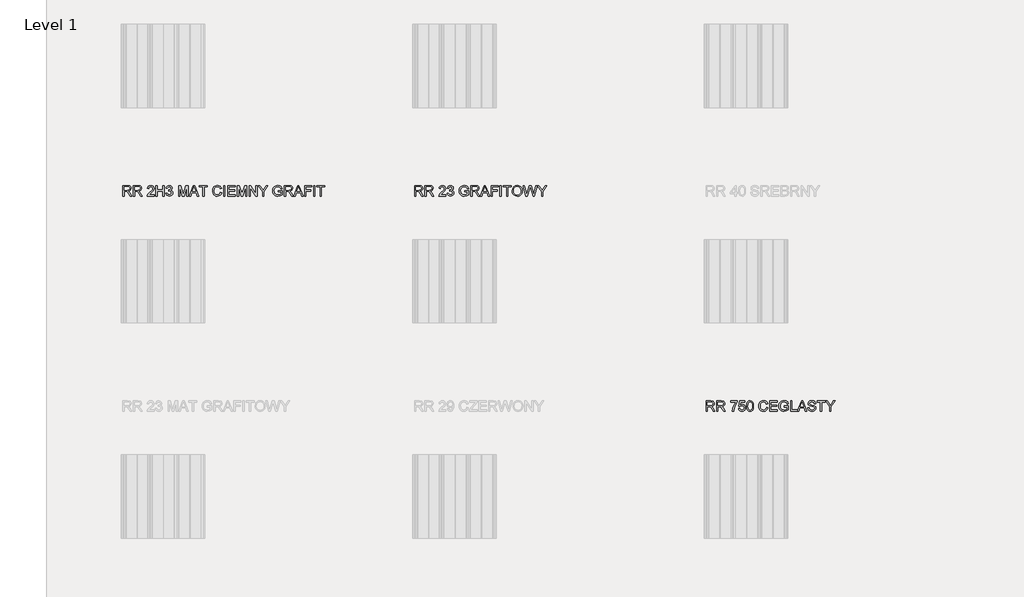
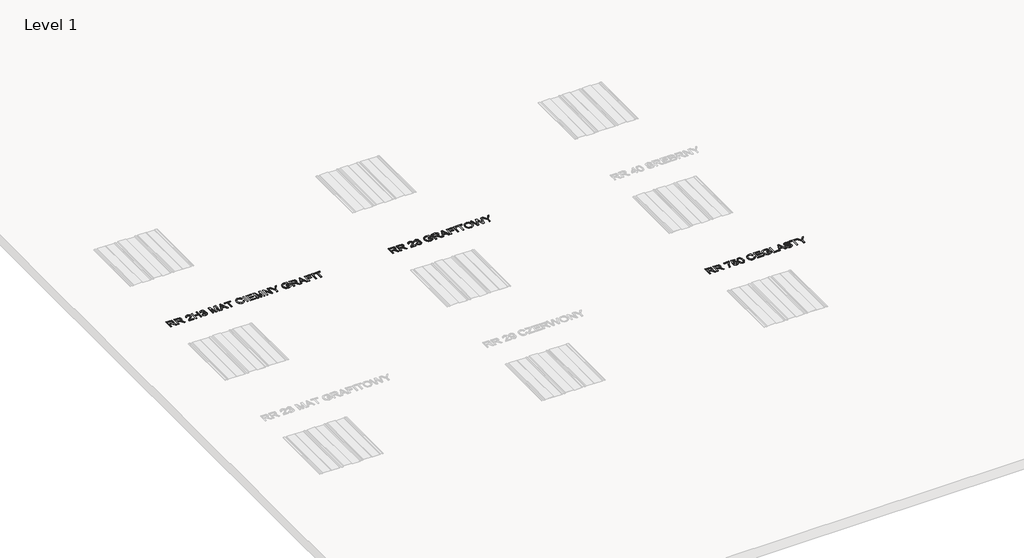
# One storey, part 6 of 9: 3 proxies.
"""IFC4 building model written with IfcOpenShell, lengths in millimetres."""

import ifcopenshell
import ifcopenshell.guid

model = None  # the IFC model being written
_history = None  # IfcOwnerHistory: only IFC2X3 demands one
_inside = {}  # id of a spatial element -> (the spatial element, [elements in it])
_under = {}  # id of a project, library or spatial element -> (it, [spatial elements below it])
_declared = {}  # id of a project -> (the project, [libraries it declares])
_typed = {}  # id of a type object -> (the type object, [elements of that type])
_made_of = {}  # id of a material, layer set ... -> (it, [elements and type objects made of it])


def new_model(schema):
    """Start an empty IFC model of exactly this schema.

    Asked for "IFC4X3", IfcOpenShell would pick the latest addendum, in which some entities
    have other attributes; the version numbers below select the first issue.
    IFC2X3 requires an IfcOwnerHistory on every rooted entity: one is made here for all.
    """
    global model, _history
    if schema == "IFC4X3":
        model = ifcopenshell.file(schema_version=(4, 3, 0, 0))
    else:
        model = ifcopenshell.file(schema=schema)
    _inside.clear()
    _under.clear()
    _declared.clear()
    _typed.clear()
    _made_of.clear()
    _history = None
    if model.schema == "IFC2X3":
        org = make("IfcOrganization", Name="unknown")
        user = make(
            "IfcPersonAndOrganization",
            ThePerson=make("IfcPerson", FamilyName="unknown"),
            TheOrganization=org,
        )
        app = make(
            "IfcApplication",
            ApplicationDeveloper=org,
            Version="unknown",
            ApplicationFullName="unknown",
            ApplicationIdentifier="unknown",
        )
        _history = make(
            "IfcOwnerHistory",
            OwningUser=user,
            OwningApplication=app,
            ChangeAction="ADDED",
            CreationDate=0,
        )
    return model


def make(cls, **values):
    """One entity of the class cls with the attributes given. An attribute that is None is left unset."""
    return model.create_entity(
        cls, **{name: value for name, value in values.items() if value is not None}
    )


def rooted(cls, **values):
    """An entity with a GlobalId (a new one), such as an element, a storey or a relation."""
    return make(cls, GlobalId=ifcopenshell.guid.new(), OwnerHistory=_history, **values)


def si_unit(unit_type, name, prefix=None):
    """IfcSIUnit, for example si_unit("LENGTHUNIT", "METRE", prefix="MILLI")."""
    return make("IfcSIUnit", UnitType=unit_type, Prefix=prefix, Name=name)


def assignment(units):
    """IfcUnitAssignment: the units of a project."""
    return None if units is None else make("IfcUnitAssignment", Units=units)


def point(xyz):
    """IfcCartesianPoint."""
    return None if xyz is None else make("IfcCartesianPoint", Coordinates=xyz)


def direction(xyz):
    """IfcDirection."""
    return None if xyz is None else make("IfcDirection", DirectionRatios=xyz)


def frame(location, z_axis=None, x_axis=None):
    """IfcAxis2Placement3D, a coordinate frame: its origin and axes. An axis left out is left unset."""
    return make(
        "IfcAxis2Placement3D",
        Location=point(location),
        Axis=direction(z_axis),
        RefDirection=direction(x_axis),
    )


def origin():
    """The frame at (0, 0, 0) with its axes left unset."""
    return frame((0.0, 0.0, 0.0))


def place(relative_to, where):
    """IfcLocalPlacement: puts the frame where relative to a parent placement (None: the world)."""
    return make(
        "IfcLocalPlacement", PlacementRelTo=relative_to, RelativePlacement=where
    )


def context(
    kind, dimensions, precision=None, world=None, true_north=None, identifier=None
):
    """IfcGeometricRepresentationContext, for example the 3D "Model" context."""
    return make(
        "IfcGeometricRepresentationContext",
        ContextIdentifier=identifier,
        ContextType=kind,
        CoordinateSpaceDimension=dimensions,
        Precision=precision,
        WorldCoordinateSystem=world,
        TrueNorth=true_north,
    )


def project(units=None, contexts=None):
    """IfcProject with its units and contexts."""
    return rooted(
        "IfcProject",
        Name="project",
        RepresentationContexts=contexts,
        UnitsInContext=assignment(units),
    )


def spatial(cls, under=None, at=None, **own):
    """A site, building, storey or space (cls), placed at a placement, below another one or the project."""
    s = rooted(cls, ObjectPlacement=at, **own)
    if under is not None:
        _under.setdefault(under.id(), (under, []))[1].append(s)
    return s


def polyline(points):
    """IfcPolyline through the points."""
    return make("IfcPolyline", Points=[point(p) for p in points])


def outline(outer, holes=None, kind="AREA"):
    """IfcArbitraryClosedProfileDef: a profile drawn as a closed curve; with holes, ...WithVoids."""
    if holes is None:
        return make("IfcArbitraryClosedProfileDef", ProfileType=kind, OuterCurve=outer)
    return make(
        "IfcArbitraryProfileDefWithVoids",
        ProfileType=kind,
        OuterCurve=outer,
        InnerCurves=holes,
    )


def extrude(swept, where, along, depth):
    """IfcExtrudedAreaSolid: the profile swept, set in the frame where, extruded along a direction by depth."""
    return make(
        "IfcExtrudedAreaSolid",
        SweptArea=swept,
        Position=where,
        ExtrudedDirection=direction(along),
        Depth=depth,
    )


def shape(context_of_items, identifier, shape_type, items):
    """IfcShapeRepresentation: the items that make up one representation, for example the "Body"."""
    return make(
        "IfcShapeRepresentation",
        ContextOfItems=context_of_items,
        RepresentationIdentifier=identifier,
        RepresentationType=shape_type,
        Items=items,
    )


def made_of(thing, what):
    """Note that an element or type object is made of a material, layer set ...; save() writes the relation."""
    if what is not None:
        _made_of.setdefault(what.id(), (what, []))[1].append(thing)
    return thing


def element(
    cls,
    number,
    at=None,
    inside=None,
    cuts=None,
    type_object=None,
    material=None,
    context=None,
    identifier="Body",
    shape_type=None,
    held_by="IfcProductDefinitionShape",
    body=None,
    shapes=None,
    **own,
):
    """One element of the class cls, such as IfcWall. Its Tag is "e" and its number.

    at: its placement. inside: the storey or other place that contains it. cuts: it is an
    opening in that element (IfcRelVoidsElement). A single representation is given by context,
    identifier, shape_type and body (its items); several are given by shapes. held_by: the class
    of the entity that holds the representations. save() writes the other relations.
    """
    e = rooted(cls, Tag="e%d" % number, ObjectPlacement=at, **own)
    if body is not None:
        shapes = [shape(context, identifier, shape_type, body)]
    if shapes is not None:
        e.Representation = make(held_by, Representations=shapes)
    if inside is not None:
        _inside.setdefault(inside.id(), (inside, []))[1].append(e)
    if cuts is not None:
        rooted(
            "IfcRelVoidsElement", RelatingBuildingElement=cuts, RelatedOpeningElement=e
        )
    if type_object is not None:
        _typed.setdefault(type_object.id(), (type_object, []))[1].append(e)
    return made_of(e, material)


def aggregate(whole, parts):
    """IfcRelAggregates: a whole, such as a stair, and the parts it consists of."""
    return rooted("IfcRelAggregates", RelatingObject=whole, RelatedObjects=parts)


def save(model, path):
    """Write the relations noted so far, then the file.

    IfcRelAggregates (storeys below a building ...), IfcRelContainedInSpatialStructure (elements
    in a storey), IfcRelDefinesByType, IfcRelAssociatesMaterial and IfcRelDeclares: one each for
    every whole, place, type object, material and project.
    """
    for whole, parts in _under.values():
        aggregate(whole, parts)
    for where, things in _inside.values():
        rooted(
            "IfcRelContainedInSpatialStructure",
            RelatedElements=things,
            RelatingStructure=where,
        )
    for kind, things in _typed.values():
        rooted("IfcRelDefinesByType", RelatedObjects=things, RelatingType=kind)
    for what, things in _made_of.values():
        rooted("IfcRelAssociatesMaterial", RelatedObjects=things, RelatingMaterial=what)
    for by, libraries in _declared.values():
        rooted("IfcRelDeclares", RelatingContext=by, RelatedDefinitions=libraries)
    model.write(path)


model = new_model("IFC4")

# Units and contexts
model_context = context("Model", 3, world=origin())
ifc_project = project(units=[si_unit("LENGTHUNIT", "METRE", prefix="MILLI")], contexts=[model_context])

# Site, building, storey
site = spatial("IfcSite", under=ifc_project)
building = spatial("IfcBuilding", under=site)
storey = spatial("IfcBuildingStorey", under=building, Name="Level 1", Elevation=0.0)

# Proxies
placement = place(None, origin())
element("IfcBuildingElementProxy", 1, Name="150 Blue", ObjectType="150 Blue", at=placement, inside=storey, context=model_context, shape_type="SweptSolid", body=[
    extrude(outline(polyline([(-8736.4118342, -1635.6514112), (-8736.4118342, -1484.966946), (-8671.4806621, -1484.966946), (-8641.3327325, -1489.032042), (-8632.0529092, -1494.6606365), (-8624.8516192, -1503.416228), (-8620.2301016, -1514.2733454), (-8618.6895957, -1526.2065176), (-8621.2417771, -1541.0505561), (-8628.8983211, -1553.3562089), (-8641.8891541, -1562.3785148), (-8660.4442022, -1567.3725129), (-8649.7388361, -1575.4291286), (-8634.4717333, -1594.8165097), (-8609.3453931, -1635.6514112), (-8631.2343718, -1635.6514112), (-8650.8424821, -1604.4182298), (-8665.0059389, -1583.7432617), (-8674.9571469, -1573.9759947), (-8683.9150735, -1570.3891452), (-8694.8411687, -1569.7269577), (-8717.576276, -1569.7269577), (-8717.576276, -1635.6514112), (-8736.4118342, -1635.6514112)]), holes=[polyline([(-8717.576276, -1550.8913995), (-8675.4169994, -1550.8913995), (-8653.9142968, -1548.224255), (-8641.7006145, -1539.6893927), (-8637.5251539, -1526.9054934), (-8639.5163152, -1517.7176406), (-8645.4897991, -1510.3140154), (-8655.7675023, -1505.4303819), (-8670.6713217, -1503.8025041), (-8717.576276, -1503.8025041), (-8717.576276, -1550.8913995)])]), frame((0.0, 0.0, 600.0), z_axis=(0.0, 0.0, 1.0), x_axis=(1.0, 0.0, 0.0)), (0.0, 0.0, 1.0), 10.0),
    extrude(outline(polyline([(-8585.727369, -1635.6514112), (-8585.727369, -1484.966946), (-8520.7961968, -1484.966946), (-8490.6482673, -1489.032042), (-8481.368444, -1494.6606365), (-8474.1671539, -1503.416228), (-8469.5456364, -1514.2733454), (-8468.0051305, -1526.2065176), (-8470.5573119, -1541.0505561), (-8478.2138559, -1553.3562089), (-8491.2046888, -1562.3785148), (-8509.759737, -1567.3725129), (-8499.0543709, -1575.4291286), (-8483.7872681, -1594.8165097), (-8458.6609278, -1635.6514112), (-8480.5499066, -1635.6514112), (-8500.1580169, -1604.4182298), (-8514.3214737, -1583.7432617), (-8524.2726817, -1573.9759947), (-8533.2306083, -1570.3891452), (-8544.1567035, -1569.7269577), (-8566.8918108, -1569.7269577), (-8566.8918108, -1635.6514112), (-8585.727369, -1635.6514112)]), holes=[polyline([(-8566.8918108, -1550.8913995), (-8524.7325342, -1550.8913995), (-8503.2298316, -1548.224255), (-8491.0161493, -1539.6893927), (-8486.8406887, -1526.9054934), (-8488.83185, -1517.7176406), (-8494.8053339, -1510.3140154), (-8505.0830371, -1505.4303819), (-8519.9868564, -1503.8025041), (-8566.8918108, -1503.8025041), (-8566.8918108, -1550.8913995)])]), frame((0.0, 0.0, 600.0), z_axis=(0.0, 0.0, 1.0), x_axis=(1.0, 0.0, 0.0)), (0.0, 0.0, 1.0), 10.0),
    extrude(outline(polyline([(-8286.7128833, -1616.815853), (-8286.7128833, -1635.6514112), (-8385.5995636, -1635.6514112), (-8383.5762126, -1622.6651768), (-8372.1166885, -1602.6707903), (-8348.5170585, -1580.8369939), (-8316.0146842, -1549.4566597), (-8309.9308357, -1538.6409291), (-8307.9028862, -1528.119504), (-8309.8204711, -1518.6879293), (-8315.5732258, -1510.8474443), (-8324.4161893, -1505.5637392), (-8335.6044005, -1503.8025041), (-8347.3536317, -1505.5223524), (-8356.4817037, -1510.6818974), (-8362.3724141, -1518.8764689), (-8364.4095607, -1529.7013966), (-8383.2451188, -1527.3469518), (-8378.6787836, -1509.127596), (-8368.8057505, -1495.8194648), (-8354.1410545, -1487.6800757), (-8335.1997303, -1484.966946), (-8316.1204503, -1487.9835783), (-8301.4833454, -1497.0334754), (-8292.1713324, -1510.5531387), (-8289.0673281, -1526.9790698), (-8292.4150542, -1544.8397407), (-8303.5434846, -1563.3074168), (-8330.5276289, -1589.1143388), (-8352.1958784, -1607.2325271), (-8360.6939525, -1616.815853), (-8286.7128833, -1616.815853)])), frame((0.0, 0.0, 600.0), z_axis=(0.0, 0.0, 1.0), x_axis=(1.0, 0.0, 0.0)), (0.0, 0.0, 1.0), 10.0),
    extrude(outline(polyline([(-8260.8139908, -1635.6514112), (-8260.8139908, -1484.966946), (-8241.9784327, -1484.966946), (-8241.9784327, -1546.18251), (-8161.9273105, -1546.18251), (-8161.9273105, -1484.966946), (-8143.0917524, -1484.966946), (-8143.0917524, -1635.6514112), (-8161.9273105, -1635.6514112), (-8161.9273105, -1565.0180681), (-8241.9784327, -1565.0180681), (-8241.9784327, -1635.6514112), (-8260.8139908, -1635.6514112)])), frame((0.0, 0.0, 600.0), z_axis=(0.0, 0.0, 1.0), x_axis=(1.0, 0.0, 0.0)), (0.0, 0.0, 1.0), 10.0),
    extrude(outline(polyline([(-8117.1928599, -1595.6258501), (-8098.3573018, -1593.2714053), (-8094.1404544, -1605.1080085), (-8087.9646354, -1613.1002449), (-8079.5263421, -1617.6527846), (-8068.522072, -1619.1702978), (-8055.6094139, -1617.0825675), (-8045.6398119, -1610.8193765), (-8039.2662563, -1601.4751738), (-8037.1417378, -1590.1444084), (-8039.2478622, -1579.3884586), (-8045.5662355, -1570.6650567), (-8055.1311673, -1564.8847109), (-8066.9769676, -1562.9579289), (-8080.1839312, -1565.0180681), (-8078.0870038, -1546.18251), (-8075.0703715, -1546.4032392), (-8053.6964276, -1540.9953738), (-8046.5779109, -1534.1343746), (-8044.2050721, -1524.3671076), (-8045.9249204, -1516.232317), (-8051.0844654, -1509.6334337), (-8058.9571401, -1505.2602365), (-8068.8163776, -1503.8025041), (-8078.6940091, -1505.2740321), (-8086.7690189, -1509.688616), (-8092.6643279, -1517.0462559), (-8096.002857, -1527.3469518), (-8114.8384152, -1524.992507), (-8109.2925941, -1508.0791323), (-8099.4241596, -1495.4515828), (-8085.9228903, -1487.5881052), (-8069.4785651, -1484.966946), (-8046.7618519, -1490.135688), (-8030.8693498, -1504.2623566), (-8025.3695139, -1523.2634617), (-8030.5934383, -1540.6274918), (-8046.0444821, -1553.0986915), (-8034.2538641, -1557.8627633), (-8025.5166667, -1565.9745613), (-8020.1088014, -1576.9926271), (-8018.3061796, -1590.4755022), (-8021.9114232, -1608.8328137), (-8032.7271538, -1624.1734929), (-8049.0519174, -1634.5477652), (-8069.1842596, -1638.005856), (-8087.3944183, -1635.0536029), (-8102.2200627, -1626.1968439), (-8112.5299556, -1612.6495894), (-8117.1928599, -1595.6258501)])), frame((0.0, 0.0, 600.0), z_axis=(0.0, 0.0, 1.0), x_axis=(1.0, 0.0, 0.0)), (0.0, 0.0, 1.0), 10.0),
    extrude(outline(polyline([(-7935.9006127, -1635.6514112), (-7935.9006127, -1484.966946), (-7903.6005735, -1484.966946), (-7872.6984859, -1591.174478), (-7866.444492, -1613.3577623), (-7859.7122515, -1589.335068), (-7829.3987751, -1484.966946), (-7796.9883713, -1484.966946), (-7796.9883713, -1635.6514112), (-7815.8239295, -1635.6514112), (-7815.8239295, -1503.8025041), (-7853.6789868, -1635.6514112), (-7879.173209, -1635.6514112), (-7917.0650545, -1503.8025041), (-7917.0650545, -1635.6514112), (-7935.9006127, -1635.6514112)])), frame((0.0, 0.0, 600.0), z_axis=(0.0, 0.0, 1.0), x_axis=(1.0, 0.0, 0.0)), (0.0, 0.0, 1.0), 10.0),
    extrude(outline(polyline([(-7781.5373275, -1635.6514112), (-7721.3886213, -1484.966946), (-7705.3489663, -1484.966946), (-7645.2370483, -1635.6514112), (-7665.1394642, -1635.6514112), (-7682.3563416, -1588.5625158), (-7744.4548224, -1588.5625158), (-7761.6716998, -1635.6514112), (-7781.5373275, -1635.6514112)]), holes=[polyline([(-7737.5386409, -1569.7269577), (-7689.2357349, -1569.7269577), (-7702.8473688, -1532.6812407), (-7713.405582, -1503.8025041), (-7722.7865729, -1529.4438792), (-7737.5386409, -1569.7269577)])]), frame((0.0, 0.0, 600.0), z_axis=(0.0, 0.0, 1.0), x_axis=(1.0, 0.0, 0.0)), (0.0, 0.0, 1.0), 10.0),
    extrude(outline(polyline([(-7587.4427869, -1635.6514112), (-7587.4427869, -1503.8025041), (-7636.886127, -1503.8025041), (-7636.886127, -1484.966946), (-7519.1638886, -1484.966946), (-7519.1638886, -1503.8025041), (-7568.6072287, -1503.8025041), (-7568.6072287, -1635.6514112), (-7587.4427869, -1635.6514112)])), frame((0.0, 0.0, 600.0), z_axis=(0.0, 0.0, 1.0), x_axis=(1.0, 0.0, 0.0)), (0.0, 0.0, 1.0), 10.0),
    extrude(outline(polyline([(-7333.1627518, -1582.0877927), (-7314.3271936, -1586.943835), (-7323.0184058, -1608.8925946), (-7336.6576308, -1624.927651), (-7354.5734839, -1634.7363047), (-7376.0945806, -1638.005856), (-7397.9421726, -1635.5318495), (-7415.2924072, -1628.1098303), (-7428.5913413, -1615.9973156), (-7438.2850319, -1599.4518229), (-7444.2033335, -1580.0000624), (-7446.1761007, -1559.1687444), (-7443.9458161, -1537.1969922), (-7437.2549623, -1518.2234783), (-7426.4530273, -1502.8506095), (-7411.8894988, -1491.6807924), (-7394.6174391, -1484.879574), (-7375.6899104, -1482.6125012), (-7355.0379349, -1485.5463601), (-7337.9636118, -1494.3479368), (-7325.00037, -1508.4746055), (-7316.6816384, -1527.38374), (-7335.5171966, -1531.8719003), (-7342.047102, -1518.1361064), (-7350.9682404, -1508.7137288), (-7362.3909763, -1503.2644767), (-7376.4256744, -1501.4480593), (-7392.6032852, -1503.4622133), (-7405.8930222, -1509.504675), (-7415.9775874, -1518.9408482), (-7422.5396825, -1531.1361364), (-7427.3405426, -1559.1319562), (-7425.9195984, -1576.5327746), (-7421.6567657, -1591.5791482), (-7414.3910963, -1603.6962614), (-7403.9616418, -1612.3092986), (-7391.4582525, -1617.455048), (-7377.9707788, -1619.1702978), (-7362.248422, -1616.8342471), (-7349.1472245, -1609.8260951), (-7339.2557973, -1598.2194182), (-7333.1627518, -1582.0877927)])), frame((0.0, 0.0, 600.0), z_axis=(0.0, 0.0, 1.0), x_axis=(1.0, 0.0, 0.0)), (0.0, 0.0, 1.0), 10.0),
    extrude(outline(polyline([(-7286.0738564, -1635.6514112), (-7286.0738564, -1484.966946), (-7267.2382983, -1484.966946), (-7267.2382983, -1635.6514112), (-7286.0738564, -1635.6514112)])), frame((0.0, 0.0, 600.0), z_axis=(0.0, 0.0, 1.0), x_axis=(1.0, 0.0, 0.0)), (0.0, 0.0, 1.0), 10.0),
    extrude(outline(polyline([(-7229.567182, -1635.6514112), (-7229.567182, -1484.966946), (-7121.2627226, -1484.966946), (-7121.2627226, -1503.8025041), (-7210.7316238, -1503.8025041), (-7210.7316238, -1548.5369547), (-7125.9716121, -1548.5369547), (-7125.9716121, -1567.3725129), (-7210.7316238, -1567.3725129), (-7210.7316238, -1616.815853), (-7118.9082778, -1616.815853), (-7118.9082778, -1635.6514112), (-7229.567182, -1635.6514112)])), frame((0.0, 0.0, 600.0), z_axis=(0.0, 0.0, 1.0), x_axis=(1.0, 0.0, 0.0)), (0.0, 0.0, 1.0), 10.0),
    extrude(outline(polyline([(-7090.6549406, -1635.6514112), (-7090.6549406, -1484.966946), (-7058.3549014, -1484.966946), (-7027.4528138, -1591.174478), (-7021.1988199, -1613.3577623), (-7014.4665794, -1589.335068), (-6984.153103, -1484.966946), (-6951.7426992, -1484.966946), (-6951.7426992, -1635.6514112), (-6970.5782574, -1635.6514112), (-6970.5782574, -1503.8025041), (-7008.4333147, -1635.6514112), (-7033.9275369, -1635.6514112), (-7071.8193824, -1503.8025041), (-7071.8193824, -1635.6514112), (-7090.6549406, -1635.6514112)])), frame((0.0, 0.0, 600.0), z_axis=(0.0, 0.0, 1.0), x_axis=(1.0, 0.0, 0.0)), (0.0, 0.0, 1.0), 10.0),
    extrude(outline(polyline([(-6918.7804724, -1635.6514112), (-6918.7804724, -1484.966946), (-6898.6205391, -1484.966946), (-6819.8937921, -1604.3446534), (-6819.8937921, -1484.966946), (-6801.058234, -1484.966946), (-6801.058234, -1635.6514112), (-6821.2181673, -1635.6514112), (-6899.9449143, -1516.2369156), (-6899.9449143, -1635.6514112), (-6918.7804724, -1635.6514112)])), frame((0.0, 0.0, 600.0), z_axis=(0.0, 0.0, 1.0), x_axis=(1.0, 0.0, 0.0)), (0.0, 0.0, 1.0), 10.0),
    extrude(outline(polyline([(-6725.7160014, -1635.6514112), (-6725.7160014, -1571.823885), (-6784.5771206, -1484.966946), (-6762.3938363, -1484.966946), (-6730.9767139, -1531.3568656), (-6714.9002707, -1555.048466), (-6698.7502511, -1529.6646084), (-6670.2393965, -1484.966946), (-6648.019324, -1484.966946), (-6706.8804432, -1571.823885), (-6706.8804432, -1635.6514112), (-6725.7160014, -1635.6514112)])), frame((0.0, 0.0, 600.0), z_axis=(0.0, 0.0, 1.0), x_axis=(1.0, 0.0, 0.0)), (0.0, 0.0, 1.0), 10.0),
    extrude(outline(polyline([(-6502.0437483, -1576.790292), (-6502.0437483, -1557.9547338), (-6440.8281843, -1557.9547338), (-6440.8281843, -1614.2774673), (-6471.0496902, -1632.0461676), (-6503.0002415, -1638.005856), (-6524.1304636, -1635.6376156), (-6543.2281377, -1628.5328946), (-6559.0930487, -1616.9400132), (-6570.5249817, -1601.1072918), (-6577.4365647, -1582.1153838), (-6579.7404257, -1561.0449426), (-6577.4457617, -1539.82275), (-6570.5617699, -1520.0812824), (-6559.3735587, -1503.5219941), (-6544.1662367, -1491.8463393), (-6525.6433783, -1484.9209607), (-6504.5085577, -1482.6125012), (-6475.0412099, -1487.9651842), (-6463.2919786, -1494.3663309), (-6454.3846358, -1502.864405), (-6442.9986881, -1527.7884102), (-6460.3627182, -1532.6812407), (-6468.9527628, -1515.2620283), (-6483.6312544, -1505.2188498), (-6504.8028633, -1501.4480593), (-6528.917528, -1505.5131554), (-6545.325065, -1516.1817333), (-6555.0187556, -1530.694678), (-6560.9048675, -1560.2723904), (-6559.1344354, -1578.2848126), (-6553.8231391, -1593.1058584), (-6545.131927, -1604.6297619), (-6533.2217474, -1612.750757), (-6519.2836183, -1617.5654126), (-6504.5085577, -1619.1702978), (-6478.7384239, -1614.3326496), (-6459.6637425, -1604.0135596), (-6459.6637425, -1576.790292), (-6502.0437483, -1576.790292)])), frame((0.0, 0.0, 600.0), z_axis=(0.0, 0.0, 1.0), x_axis=(1.0, 0.0, 0.0)), (0.0, 0.0, 1.0), 10.0),
    extrude(outline(polyline([(-6410.2204023, -1635.6514112), (-6410.2204023, -1484.966946), (-6345.2892302, -1484.966946), (-6315.1413006, -1489.032042), (-6305.8614773, -1494.6606365), (-6298.6601873, -1503.416228), (-6294.0386697, -1514.2733454), (-6292.4981638, -1526.2065176), (-6295.0503452, -1541.0505561), (-6302.7068892, -1553.3562089), (-6315.6977222, -1562.3785148), (-6334.2527703, -1567.3725129), (-6323.5474042, -1575.4291286), (-6308.2803014, -1594.8165097), (-6283.1539612, -1635.6514112), (-6305.0429399, -1635.6514112), (-6324.6510502, -1604.4182298), (-6338.814507, -1583.7432617), (-6348.765715, -1573.9759947), (-6357.7236416, -1570.3891452), (-6368.6497368, -1569.7269577), (-6391.3848441, -1569.7269577), (-6391.3848441, -1635.6514112), (-6410.2204023, -1635.6514112)]), holes=[polyline([(-6391.3848441, -1550.8913995), (-6349.2255675, -1550.8913995), (-6327.7228649, -1548.224255), (-6315.5091826, -1539.6893927), (-6311.333722, -1526.9054934), (-6313.3248833, -1517.7176406), (-6319.2983672, -1510.3140154), (-6329.5760704, -1505.4303819), (-6344.4798898, -1503.8025041), (-6391.3848441, -1503.8025041), (-6391.3848441, -1550.8913995)])]), frame((0.0, 0.0, 600.0), z_axis=(0.0, 0.0, 1.0), x_axis=(1.0, 0.0, 0.0)), (0.0, 0.0, 1.0), 10.0),
    extrude(outline(polyline([(-6277.04712, -1635.6514112), (-6216.8984138, -1484.966946), (-6200.8587588, -1484.966946), (-6140.7468408, -1635.6514112), (-6160.6492568, -1635.6514112), (-6177.8661341, -1588.5625158), (-6239.9646149, -1588.5625158), (-6257.1814923, -1635.6514112), (-6277.04712, -1635.6514112)]), holes=[polyline([(-6233.0484334, -1569.7269577), (-6184.7455275, -1569.7269577), (-6198.3571613, -1532.6812407), (-6208.9153745, -1503.8025041), (-6218.2963654, -1529.4438792), (-6233.0484334, -1569.7269577)])]), frame((0.0, 0.0, 600.0), z_axis=(0.0, 0.0, 1.0), x_axis=(1.0, 0.0, 0.0)), (0.0, 0.0, 1.0), 10.0),
    extrude(outline(polyline([(-6120.6236957, -1635.6514112), (-6120.6236957, -1484.966946), (-6019.3825706, -1484.966946), (-6019.3825706, -1503.8025041), (-6101.7881375, -1503.8025041), (-6101.7881375, -1548.5369547), (-6031.1547945, -1548.5369547), (-6031.1547945, -1567.3725129), (-6101.7881375, -1567.3725129), (-6101.7881375, -1635.6514112), (-6120.6236957, -1635.6514112)])), frame((0.0, 0.0, 600.0), z_axis=(0.0, 0.0, 1.0), x_axis=(1.0, 0.0, 0.0)), (0.0, 0.0, 1.0), 10.0),
    extrude(outline(polyline([(-5991.1292334, -1635.6514112), (-5991.1292334, -1484.966946), (-5972.2936752, -1484.966946), (-5972.2936752, -1635.6514112), (-5991.1292334, -1635.6514112)])), frame((0.0, 0.0, 600.0), z_axis=(0.0, 0.0, 1.0), x_axis=(1.0, 0.0, 0.0)), (0.0, 0.0, 1.0), 10.0),
    extrude(outline(polyline([(-5896.9514426, -1635.6514112), (-5896.9514426, -1503.8025041), (-5946.3947828, -1503.8025041), (-5946.3947828, -1484.966946), (-5828.6725443, -1484.966946), (-5828.6725443, -1503.8025041), (-5878.1158845, -1503.8025041), (-5878.1158845, -1635.6514112), (-5896.9514426, -1635.6514112)])), frame((0.0, 0.0, 600.0), z_axis=(0.0, 0.0, 1.0), x_axis=(1.0, 0.0, 0.0)), (0.0, 0.0, 1.0), 10.0),
])
element("IfcBuildingElementProxy", 2, Name="150 Blue", ObjectType="150 Blue", at=placement, inside=storey, context=model_context, shape_type="SweptSolid", body=[
    extrude(outline(polyline([(-4536.4118342, -1635.6514112), (-4536.4118342, -1484.966946), (-4471.4806621, -1484.966946), (-4441.3327325, -1489.032042), (-4432.0529092, -1494.6606365), (-4424.8516192, -1503.416228), (-4420.2301016, -1514.2733454), (-4418.6895957, -1526.2065176), (-4421.2417771, -1541.0505561), (-4428.8983211, -1553.3562089), (-4441.8891541, -1562.3785148), (-4460.4442022, -1567.3725129), (-4449.7388361, -1575.4291286), (-4434.4717333, -1594.8165097), (-4409.3453931, -1635.6514112), (-4431.2343718, -1635.6514112), (-4450.8424821, -1604.4182298), (-4465.0059389, -1583.7432617), (-4474.9571469, -1573.9759947), (-4483.9150735, -1570.3891452), (-4494.8411687, -1569.7269577), (-4517.576276, -1569.7269577), (-4517.576276, -1635.6514112), (-4536.4118342, -1635.6514112)]), holes=[polyline([(-4517.576276, -1550.8913995), (-4475.4169994, -1550.8913995), (-4453.9142968, -1548.224255), (-4441.7006145, -1539.6893927), (-4437.5251539, -1526.9054934), (-4439.5163152, -1517.7176406), (-4445.4897991, -1510.3140154), (-4455.7675023, -1505.4303819), (-4470.6713217, -1503.8025041), (-4517.576276, -1503.8025041), (-4517.576276, -1550.8913995)])]), frame((0.0, 0.0, 600.0), z_axis=(0.0, 0.0, 1.0), x_axis=(1.0, 0.0, 0.0)), (0.0, 0.0, 1.0), 10.0),
    extrude(outline(polyline([(-4385.727369, -1635.6514112), (-4385.727369, -1484.966946), (-4320.7961968, -1484.966946), (-4290.6482673, -1489.032042), (-4281.368444, -1494.6606365), (-4274.1671539, -1503.416228), (-4269.5456364, -1514.2733454), (-4268.0051305, -1526.2065176), (-4270.5573119, -1541.0505561), (-4278.2138559, -1553.3562089), (-4291.2046888, -1562.3785148), (-4309.759737, -1567.3725129), (-4299.0543709, -1575.4291286), (-4283.7872681, -1594.8165097), (-4258.6609278, -1635.6514112), (-4280.5499066, -1635.6514112), (-4300.1580169, -1604.4182298), (-4314.3214737, -1583.7432617), (-4324.2726817, -1573.9759947), (-4333.2306083, -1570.3891452), (-4344.1567035, -1569.7269577), (-4366.8918108, -1569.7269577), (-4366.8918108, -1635.6514112), (-4385.727369, -1635.6514112)]), holes=[polyline([(-4366.8918108, -1550.8913995), (-4324.7325342, -1550.8913995), (-4303.2298316, -1548.224255), (-4291.0161493, -1539.6893927), (-4286.8406887, -1526.9054934), (-4288.83185, -1517.7176406), (-4294.8053339, -1510.3140154), (-4305.0830371, -1505.4303819), (-4319.9868564, -1503.8025041), (-4366.8918108, -1503.8025041), (-4366.8918108, -1550.8913995)])]), frame((0.0, 0.0, 600.0), z_axis=(0.0, 0.0, 1.0), x_axis=(1.0, 0.0, 0.0)), (0.0, 0.0, 1.0), 10.0),
    extrude(outline(polyline([(-4086.7128833, -1616.815853), (-4086.7128833, -1635.6514112), (-4185.5995636, -1635.6514112), (-4183.5762126, -1622.6651768), (-4172.1166885, -1602.6707903), (-4148.5170585, -1580.8369939), (-4116.0146842, -1549.4566597), (-4109.9308357, -1538.6409291), (-4107.9028862, -1528.119504), (-4109.8204711, -1518.6879293), (-4115.5732258, -1510.8474443), (-4124.4161893, -1505.5637392), (-4135.6044005, -1503.8025041), (-4147.3536317, -1505.5223524), (-4156.4817037, -1510.6818974), (-4162.3724141, -1518.8764689), (-4164.4095607, -1529.7013966), (-4183.2451188, -1527.3469518), (-4178.6787836, -1509.127596), (-4168.8057505, -1495.8194648), (-4154.1410545, -1487.6800757), (-4135.1997303, -1484.966946), (-4116.1204503, -1487.9835783), (-4101.4833454, -1497.0334754), (-4092.1713324, -1510.5531387), (-4089.0673281, -1526.9790698), (-4092.4150542, -1544.8397407), (-4103.5434846, -1563.3074168), (-4130.5276289, -1589.1143388), (-4152.1958784, -1607.2325271), (-4160.6939525, -1616.815853), (-4086.7128833, -1616.815853)])), frame((0.0, 0.0, 600.0), z_axis=(0.0, 0.0, 1.0), x_axis=(1.0, 0.0, 0.0)), (0.0, 0.0, 1.0), 10.0),
    extrude(outline(polyline([(-4067.8773251, -1595.6258501), (-4049.041767, -1593.2714053), (-4044.8249196, -1605.1080085), (-4038.6491006, -1613.1002449), (-4030.2108074, -1617.6527846), (-4019.2065372, -1619.1702978), (-4006.2938792, -1617.0825675), (-3996.3242771, -1610.8193765), (-3989.9507215, -1601.4751738), (-3987.826203, -1590.1444084), (-3989.9323274, -1579.3884586), (-3996.2507007, -1570.6650567), (-4005.8156326, -1564.8847109), (-4017.6614328, -1562.9579289), (-4030.8683964, -1565.0180681), (-4028.7714691, -1546.18251), (-4025.7548367, -1546.4032392), (-4004.3808928, -1540.9953738), (-3997.2623762, -1534.1343746), (-3994.8895373, -1524.3671076), (-3996.6093856, -1516.232317), (-4001.7689306, -1509.6334337), (-4009.6416053, -1505.2602365), (-4019.5008428, -1503.8025041), (-4029.3784744, -1505.2740321), (-4037.4534841, -1509.688616), (-4043.3487931, -1517.0462559), (-4046.6873222, -1527.3469518), (-4065.5228804, -1524.992507), (-4059.9770593, -1508.0791323), (-4050.1086248, -1495.4515828), (-4036.6073556, -1487.5881052), (-4020.1630304, -1484.966946), (-3997.4463172, -1490.135688), (-3981.553815, -1504.2623566), (-3976.0539791, -1523.2634617), (-3981.2779035, -1540.6274918), (-3996.7289473, -1553.0986915), (-3984.9383293, -1557.8627633), (-3976.2011319, -1565.9745613), (-3970.7932666, -1576.9926271), (-3968.9906448, -1590.4755022), (-3972.5958884, -1608.8328137), (-3983.4116191, -1624.1734929), (-3999.7363826, -1634.5477652), (-4019.8687248, -1638.005856), (-4038.0788835, -1635.0536029), (-4052.9045279, -1626.1968439), (-4063.2144209, -1612.6495894), (-4067.8773251, -1595.6258501)])), frame((0.0, 0.0, 600.0), z_axis=(0.0, 0.0, 1.0), x_axis=(1.0, 0.0, 0.0)), (0.0, 0.0, 1.0), 10.0),
    extrude(outline(polyline([(-3815.9517348, -1576.790292), (-3815.9517348, -1557.9547338), (-3754.7361709, -1557.9547338), (-3754.7361709, -1614.2774673), (-3784.9576768, -1632.0461676), (-3816.908228, -1638.005856), (-3838.0384501, -1635.6376156), (-3857.1361242, -1628.5328946), (-3873.0010353, -1616.9400132), (-3884.4329683, -1601.1072918), (-3891.3445512, -1582.1153838), (-3893.6484122, -1561.0449426), (-3891.3537483, -1539.82275), (-3884.4697564, -1520.0812824), (-3873.2815453, -1503.5219941), (-3858.0742233, -1491.8463393), (-3839.5513648, -1484.9209607), (-3818.4165442, -1482.6125012), (-3788.9491964, -1487.9651842), (-3777.1999652, -1494.3663309), (-3768.2926224, -1502.864405), (-3756.9066746, -1527.7884102), (-3774.2707048, -1532.6812407), (-3782.8607494, -1515.2620283), (-3797.539241, -1505.2188498), (-3818.7108498, -1501.4480593), (-3842.8255146, -1505.5131554), (-3859.2330516, -1516.1817333), (-3868.9267422, -1530.694678), (-3874.8128541, -1560.2723904), (-3873.042422, -1578.2848126), (-3867.7311257, -1593.1058584), (-3859.0399135, -1604.6297619), (-3847.1297339, -1612.750757), (-3833.1916048, -1617.5654126), (-3818.4165442, -1619.1702978), (-3792.6464105, -1614.3326496), (-3773.571729, -1604.0135596), (-3773.571729, -1576.790292), (-3815.9517348, -1576.790292)])), frame((0.0, 0.0, 600.0), z_axis=(0.0, 0.0, 1.0), x_axis=(1.0, 0.0, 0.0)), (0.0, 0.0, 1.0), 10.0),
    extrude(outline(polyline([(-3724.1283889, -1635.6514112), (-3724.1283889, -1484.966946), (-3659.1972167, -1484.966946), (-3629.0492872, -1489.032042), (-3619.7694639, -1494.6606365), (-3612.5681738, -1503.416228), (-3607.9466563, -1514.2733454), (-3606.4061504, -1526.2065176), (-3608.9583317, -1541.0505561), (-3616.6148758, -1553.3562089), (-3629.6057087, -1562.3785148), (-3648.1607568, -1567.3725129), (-3637.4553908, -1575.4291286), (-3622.188288, -1594.8165097), (-3597.0619477, -1635.6514112), (-3618.9509264, -1635.6514112), (-3638.5590368, -1604.4182298), (-3652.7224936, -1583.7432617), (-3662.6737016, -1573.9759947), (-3671.6316281, -1570.3891452), (-3682.5577234, -1569.7269577), (-3705.2928307, -1569.7269577), (-3705.2928307, -1635.6514112), (-3724.1283889, -1635.6514112)]), holes=[polyline([(-3705.2928307, -1550.8913995), (-3663.1335541, -1550.8913995), (-3641.6308514, -1548.224255), (-3629.4171692, -1539.6893927), (-3625.2417085, -1526.9054934), (-3627.2328698, -1517.7176406), (-3633.2063537, -1510.3140154), (-3643.484057, -1505.4303819), (-3658.3878763, -1503.8025041), (-3705.2928307, -1503.8025041), (-3705.2928307, -1550.8913995)])]), frame((0.0, 0.0, 600.0), z_axis=(0.0, 0.0, 1.0), x_axis=(1.0, 0.0, 0.0)), (0.0, 0.0, 1.0), 10.0),
    extrude(outline(polyline([(-3590.9551066, -1635.6514112), (-3530.8064004, -1484.966946), (-3514.7667454, -1484.966946), (-3454.6548274, -1635.6514112), (-3474.5572433, -1635.6514112), (-3491.7741207, -1588.5625158), (-3553.8726015, -1588.5625158), (-3571.0894789, -1635.6514112), (-3590.9551066, -1635.6514112)]), holes=[polyline([(-3546.95642, -1569.7269577), (-3498.653514, -1569.7269577), (-3512.2651478, -1532.6812407), (-3522.8233611, -1503.8025041), (-3532.204352, -1529.4438792), (-3546.95642, -1569.7269577)])]), frame((0.0, 0.0, 600.0), z_axis=(0.0, 0.0, 1.0), x_axis=(1.0, 0.0, 0.0)), (0.0, 0.0, 1.0), 10.0),
    extrude(outline(polyline([(-3434.5316822, -1635.6514112), (-3434.5316822, -1484.966946), (-3333.2905572, -1484.966946), (-3333.2905572, -1503.8025041), (-3415.6961241, -1503.8025041), (-3415.6961241, -1548.5369547), (-3345.062781, -1548.5369547), (-3345.062781, -1567.3725129), (-3415.6961241, -1567.3725129), (-3415.6961241, -1635.6514112), (-3434.5316822, -1635.6514112)])), frame((0.0, 0.0, 600.0), z_axis=(0.0, 0.0, 1.0), x_axis=(1.0, 0.0, 0.0)), (0.0, 0.0, 1.0), 10.0),
    extrude(outline(polyline([(-3305.0372199, -1635.6514112), (-3305.0372199, -1484.966946), (-3286.2016618, -1484.966946), (-3286.2016618, -1635.6514112), (-3305.0372199, -1635.6514112)])), frame((0.0, 0.0, 600.0), z_axis=(0.0, 0.0, 1.0), x_axis=(1.0, 0.0, 0.0)), (0.0, 0.0, 1.0), 10.0),
    extrude(outline(polyline([(-3210.8594292, -1635.6514112), (-3210.8594292, -1503.8025041), (-3260.3027693, -1503.8025041), (-3260.3027693, -1484.966946), (-3142.5805309, -1484.966946), (-3142.5805309, -1503.8025041), (-3192.023871, -1503.8025041), (-3192.023871, -1635.6514112), (-3210.8594292, -1635.6514112)])), frame((0.0, 0.0, 600.0), z_axis=(0.0, 0.0, 1.0), x_axis=(1.0, 0.0, 0.0)), (0.0, 0.0, 1.0), 10.0),
    extrude(outline(polyline([(-3128.4538623, -1562.2957413), (-3123.432273, -1528.9748296), (-3117.1552865, -1515.356298), (-3108.3675053, -1503.7657159), (-3085.3656836, -1487.9008049), (-3056.5329322, -1482.6125012), (-3036.768472, -1485.0957047), (-3019.0457569, -1492.5453151), (-3004.3304771, -1504.4371006), (-2993.5883228, -1520.2468293), (-2987.0216292, -1539.2111462), (-2984.8327313, -1560.566696), (-2987.1365923, -1582.2073543), (-2994.0481753, -1601.4383856), (-3005.1858027, -1617.2757055), (-3020.167797, -1628.7352297), (-3037.7387608, -1635.6881994), (-3056.6432968, -1638.005856), (-3076.7112596, -1635.4444776), (-3094.5351423, -1627.7603424), (-3109.2136339, -1615.6478277), (-3119.8454236, -1599.8013108), (-3126.3017526, -1581.5681594), (-3128.4538623, -1562.2957413)]), holes=[polyline([(-3109.6183041, -1562.4796823), (-3105.8521122, -1586.0517212), (-3094.5535364, -1604.0135596), (-3077.5711838, -1615.3811133), (-3056.7536614, -1619.1702978), (-3035.6326364, -1615.3443251), (-3018.6226926, -1603.8664068), (-3007.4068903, -1585.3527454), (-3003.6682895, -1560.4195432), (-3005.2685762, -1543.7452917), (-3010.0694362, -1529.3335146), (-3017.9467094, -1517.5474952), (-3028.7762357, -1508.750517), (-3041.840645, -1503.2736737), (-3056.4225676, -1501.4480593), (-3076.6836685, -1504.9659309), (-3093.9097429, -1515.5195457), (-3105.6911638, -1534.295323), (-3109.6183041, -1562.4796823)])]), frame((0.0, 0.0, 600.0), z_axis=(0.0, 0.0, 1.0), x_axis=(1.0, 0.0, 0.0)), (0.0, 0.0, 1.0), 10.0),
    extrude(outline(polyline([(-2931.9680886, -1635.6514112), (-2973.0605075, -1484.966946), (-2953.6363382, -1484.966946), (-2929.7975849, -1584.0007791), (-2922.439945, -1614.5717729), (-2914.5672703, -1587.5324462), (-2884.6952523, -1484.966946), (-2856.6994324, -1484.966946), (-2834.9943947, -1559.3158972), (-2818.8443751, -1614.5717729), (-2811.7074644, -1584.8836959), (-2787.6847701, -1484.966946), (-2768.2238126, -1484.966946), (-2809.2794432, -1635.6514112), (-2829.4393766, -1635.6514112), (-2865.6021767, -1519.4007007), (-2870.64216, -1503.1771047), (-2876.3075428, -1522.7116387), (-2909.2329813, -1635.6514112), (-2931.9680886, -1635.6514112)])), frame((0.0, 0.0, 600.0), z_axis=(0.0, 0.0, 1.0), x_axis=(1.0, 0.0, 0.0)), (0.0, 0.0, 1.0), 10.0),
    extrude(outline(polyline([(-2707.0082486, -1635.6514112), (-2707.0082486, -1571.823885), (-2765.8693678, -1484.966946), (-2743.6860835, -1484.966946), (-2712.2689611, -1531.3568656), (-2696.1925179, -1555.048466), (-2680.0424983, -1529.6646084), (-2651.5316437, -1484.966946), (-2629.3115712, -1484.966946), (-2688.1726904, -1571.823885), (-2688.1726904, -1635.6514112), (-2707.0082486, -1635.6514112)])), frame((0.0, 0.0, 600.0), z_axis=(0.0, 0.0, 1.0), x_axis=(1.0, 0.0, 0.0)), (0.0, 0.0, 1.0), 10.0),
])
element("IfcBuildingElementProxy", 3, Name="150 Blue", ObjectType="150 Blue", at=placement, inside=storey, context=model_context, shape_type="SweptSolid", body=[
    extrude(outline(polyline([(-336.4118342, -4735.6514112), (-336.4118342, -4584.966946), (-271.4806621, -4584.966946), (-241.3327325, -4589.032042), (-232.0529092, -4594.6606365), (-224.8516192, -4603.416228), (-220.2301016, -4614.2733454), (-218.6895957, -4626.2065176), (-221.2417771, -4641.0505561), (-228.8983211, -4653.3562089), (-241.8891541, -4662.3785148), (-260.4442022, -4667.3725129), (-249.7388361, -4675.4291286), (-234.4717333, -4694.8165097), (-209.3453931, -4735.6514112), (-231.2343718, -4735.6514112), (-250.8424821, -4704.4182298), (-265.0059389, -4683.7432617), (-274.9571469, -4673.9759947), (-283.9150735, -4670.3891452), (-294.8411687, -4669.7269577), (-317.576276, -4669.7269577), (-317.576276, -4735.6514112), (-336.4118342, -4735.6514112)]), holes=[polyline([(-317.576276, -4650.8913995), (-275.4169994, -4650.8913995), (-253.9142968, -4648.224255), (-241.7006145, -4639.6893927), (-237.5251539, -4626.9054934), (-239.5163152, -4617.7176406), (-245.4897991, -4610.3140154), (-255.7675023, -4605.4303819), (-270.6713217, -4603.8025041), (-317.576276, -4603.8025041), (-317.576276, -4650.8913995)])]), frame((0.0, 0.0, 600.0), z_axis=(0.0, 0.0, 1.0), x_axis=(1.0, 0.0, 0.0)), (0.0, 0.0, 1.0), 10.0),
    extrude(outline(polyline([(-185.727369, -4735.6514112), (-185.727369, -4584.966946), (-120.7961968, -4584.966946), (-90.6482673, -4589.032042), (-81.368444, -4594.6606365), (-74.1671539, -4603.416228), (-69.5456364, -4614.2733454), (-68.0051305, -4626.2065176), (-70.5573119, -4641.0505561), (-78.2138559, -4653.3562089), (-91.2046888, -4662.3785148), (-109.759737, -4667.3725129), (-99.0543709, -4675.4291286), (-83.7872681, -4694.8165097), (-58.6609278, -4735.6514112), (-80.5499066, -4735.6514112), (-100.1580169, -4704.4182298), (-114.3214737, -4683.7432617), (-124.2726817, -4673.9759947), (-133.2306083, -4670.3891452), (-144.1567035, -4669.7269577), (-166.8918108, -4669.7269577), (-166.8918108, -4735.6514112), (-185.727369, -4735.6514112)]), holes=[polyline([(-166.8918108, -4650.8913995), (-124.7325342, -4650.8913995), (-103.2298316, -4648.224255), (-91.0161493, -4639.6893927), (-86.8406887, -4626.9054934), (-88.83185, -4617.7176406), (-94.8053339, -4610.3140154), (-105.0830371, -4605.4303819), (-119.9868564, -4603.8025041), (-166.8918108, -4603.8025041), (-166.8918108, -4650.8913995)])]), frame((0.0, 0.0, 600.0), z_axis=(0.0, 0.0, 1.0), x_axis=(1.0, 0.0, 0.0)), (0.0, 0.0, 1.0), 10.0),
    extrude(outline(polyline([(16.7548812, -4606.1569489), (16.7548812, -4587.3213907), (115.6415615, -4587.3213907), (115.6415615, -4602.5517053), (87.5905593, -4643.0739071), (75.2803081, -4668.5359397), (66.1246449, -4694.7061451), (59.134887, -4735.6514112), (40.2993289, -4735.6514112), (47.7857275, -4693.1610407), (56.4999322, -4668.7014866), (68.3319369, -4645.1340463), (96.8060033, -4606.1569489), (16.7548812, -4606.1569489)])), frame((0.0, 0.0, 600.0), z_axis=(0.0, 0.0, 1.0), x_axis=(1.0, 0.0, 0.0)), (0.0, 0.0, 1.0), 10.0),
    extrude(outline(polyline([(132.1226749, -4695.6258501), (150.958233, -4693.2714053), (154.4163238, -4704.5791782), (160.4495885, -4712.6771806), (169.030436, -4717.5470185), (180.1312752, -4719.1702978), (193.6325444, -4716.9124221), (203.7492993, -4710.1387948), (210.0676726, -4699.6311653), (212.173797, -4686.1712828), (210.2010298, -4673.4977481), (204.2827282, -4663.8040575), (194.372907, -4657.6512312), (180.4255808, -4655.600289), (163.8892851, -4658.8744388), (153.3126778, -4667.3725129), (134.4771196, -4665.0180681), (150.958233, -4587.3213907), (223.9460209, -4587.3213907), (223.9460209, -4606.1569489), (166.1885476, -4606.1569489), (158.0951437, -4647.6540379), (171.5504277, -4639.4870576), (185.6495052, -4636.7647309), (203.2526586, -4640.1400482), (217.8759679, -4650.2660001), (227.7260084, -4665.6986498), (231.0093552, -4684.9940605), (228.0571021, -4703.8296186), (219.2003431, -4719.94285), (202.2409831, -4733.4901045), (180.0576988, -4738.005856), (161.557833, -4735.1041867), (146.8195606, -4726.399179), (136.7166013, -4712.9025083), (132.1226749, -4695.6258501)])), frame((0.0, 0.0, 600.0), z_axis=(0.0, 0.0, 1.0), x_axis=(1.0, 0.0, 0.0)), (0.0, 0.0, 1.0), 10.0),
    extrude(outline(polyline([(247.4904685, -4661.5231892), (248.8746245, -4637.4039259), (253.0270926, -4618.168296), (259.9064859, -4603.5219941), (269.4714178, -4593.1707145), (281.7908661, -4587.0178881), (296.9338087, -4584.966946), (318.933152, -4589.8229883), (334.1266784, -4603.8208982), (342.9558463, -4626.1145471), (346.3771488, -4661.5231892), (345.0067884, -4685.5044967), (340.8957071, -4704.6941413), (334.0577005, -4719.3542388), (324.5065642, -4729.7469052), (312.1595248, -4735.9411183), (296.9338087, -4738.005856), (277.3624866, -4734.4190065), (262.5000539, -4723.6584581), (251.2428649, -4698.1734329), (247.4904685, -4661.5231892)]), holes=[polyline([(266.3260267, -4661.486401), (268.5333187, -4691.1146971), (275.1551946, -4708.2625966), (285.0144321, -4716.4433725), (296.9338087, -4719.1702978), (308.8531853, -4716.4341755), (318.7124228, -4708.2258084), (325.3342987, -4691.0687119), (327.5415907, -4661.486401), (325.4078751, -4632.5248909), (319.0067284, -4615.2436342), (309.165885, -4606.6627866), (296.7130795, -4603.8025041), (284.9224616, -4606.3224958), (275.4495002, -4613.8824708), (268.6068951, -4632.2397823), (266.3260267, -4661.486401)])]), frame((0.0, 0.0, 600.0), z_axis=(0.0, 0.0, 1.0), x_axis=(1.0, 0.0, 0.0)), (0.0, 0.0, 1.0), 10.0),
    extrude(outline(polyline([(534.7327304, -4682.0877927), (553.5682885, -4686.943835), (544.8770764, -4708.8925946), (531.2378514, -4724.927651), (513.3219983, -4734.7363047), (491.8009015, -4738.005856), (469.9533096, -4735.5318495), (452.603075, -4728.1098303), (439.3041408, -4715.9973156), (429.6104503, -4699.4518229), (423.6921487, -4680.0000624), (421.7193815, -4659.1687444), (423.9496661, -4637.1969922), (430.6405198, -4618.2234783), (441.4424549, -4602.8506095), (456.0059834, -4591.6807924), (473.2780431, -4584.879574), (492.2055717, -4582.6125012), (512.8575472, -4585.5463601), (529.9318703, -4594.3479368), (542.8951121, -4608.4746055), (551.2138438, -4627.38374), (532.3782856, -4631.8719003), (525.8483802, -4618.1361064), (516.9272418, -4608.7137288), (505.5045059, -4603.2644767), (491.4698077, -4601.4480593), (475.292197, -4603.4622133), (462.0024599, -4609.504675), (451.9178947, -4618.9408482), (445.3557996, -4631.1361364), (440.5549396, -4659.1319562), (441.9758838, -4676.5327746), (446.2387164, -4691.5791482), (453.5043858, -4703.6962614), (463.9338404, -4712.3092986), (476.4372297, -4717.455048), (489.9247034, -4719.1702978), (505.6470601, -4716.8342471), (518.7482577, -4709.8260951), (528.6396848, -4698.2194182), (534.7327304, -4682.0877927)])), frame((0.0, 0.0, 600.0), z_axis=(0.0, 0.0, 1.0), x_axis=(1.0, 0.0, 0.0)), (0.0, 0.0, 1.0), 10.0),
    extrude(outline(polyline([(579.467181, -4735.6514112), (579.467181, -4584.966946), (687.7716404, -4584.966946), (687.7716404, -4603.8025041), (598.3027391, -4603.8025041), (598.3027391, -4648.5369547), (683.0627508, -4648.5369547), (683.0627508, -4667.3725129), (598.3027391, -4667.3725129), (598.3027391, -4716.815853), (690.1260851, -4716.815853), (690.1260851, -4735.6514112), (579.467181, -4735.6514112)])), frame((0.0, 0.0, 600.0), z_axis=(0.0, 0.0, 1.0), x_axis=(1.0, 0.0, 0.0)), (0.0, 0.0, 1.0), 10.0),
    extrude(outline(polyline([(789.0127654, -4676.790292), (789.0127654, -4657.9547338), (850.2283294, -4657.9547338), (850.2283294, -4714.2774673), (820.0068235, -4732.0461676), (788.0562723, -4738.005856), (766.9260502, -4735.6376156), (747.8283761, -4728.5328946), (731.963465, -4716.9400132), (720.531532, -4701.1072918), (713.6199491, -4682.1153838), (711.3160881, -4661.0449426), (713.610752, -4639.82275), (720.4947438, -4620.0812824), (731.682955, -4603.5219941), (746.890277, -4591.8463393), (765.4131355, -4584.9209607), (786.5479561, -4582.6125012), (816.0153039, -4587.9651842), (827.7645351, -4594.3663309), (836.6718779, -4602.864405), (848.0578257, -4627.7884102), (830.6937955, -4632.6812407), (822.1037509, -4615.2620283), (807.4252593, -4605.2188498), (786.2536505, -4601.4480593), (762.1389857, -4605.5131554), (745.7314487, -4616.1817333), (736.0377581, -4630.694678), (730.1516462, -4660.2723904), (731.9220783, -4678.2848126), (737.2333746, -4693.1058584), (745.9245868, -4704.6297619), (757.8347664, -4712.750757), (771.7728954, -4717.5654126), (786.5479561, -4719.1702978), (812.3180898, -4714.3326496), (831.3927713, -4704.0135596), (831.3927713, -4676.790292), (789.0127654, -4676.790292)])), frame((0.0, 0.0, 600.0), z_axis=(0.0, 0.0, 1.0), x_axis=(1.0, 0.0, 0.0)), (0.0, 0.0, 1.0), 10.0),
    extrude(outline(polyline([(880.8361114, -4735.6514112), (880.8361114, -4584.966946), (899.6716696, -4584.966946), (899.6716696, -4716.815853), (975.0139022, -4716.815853), (975.0139022, -4735.6514112), (880.8361114, -4735.6514112)])), frame((0.0, 0.0, 600.0), z_axis=(0.0, 0.0, 1.0), x_axis=(1.0, 0.0, 0.0)), (0.0, 0.0, 1.0), 10.0),
    extrude(outline(polyline([(978.6927222, -4735.6514112), (1038.8414284, -4584.966946), (1054.8810834, -4584.966946), (1114.9930014, -4735.6514112), (1095.0905854, -4735.6514112), (1077.8737081, -4688.5625158), (1015.7752273, -4688.5625158), (998.5583499, -4735.6514112), (978.6927222, -4735.6514112)]), holes=[polyline([(1022.6914088, -4669.7269577), (1070.9943147, -4669.7269577), (1057.3826809, -4632.6812407), (1046.8244677, -4603.8025041), (1037.4434768, -4629.4438792), (1022.6914088, -4669.7269577)])]), frame((0.0, 0.0, 600.0), z_axis=(0.0, 0.0, 1.0), x_axis=(1.0, 0.0, 0.0)), (0.0, 0.0, 1.0), 10.0),
    extrude(outline(polyline([(1128.0528122, -4683.8536263), (1146.8883704, -4683.8536263), (1152.9584233, -4702.7075785), (1167.7840677, -4714.6269552), (1190.3720222, -4719.1702978), (1210.0537089, -4715.7306011), (1222.7640319, -4706.2760339), (1226.9394925, -4693.6392873), (1223.8124955, -4681.8854576), (1211.0102021, -4673.3322012), (1183.5845994, -4666.1401082), (1154.0620693, -4656.8510878), (1138.0408084, -4642.8347838), (1132.7617017, -4624.1095903), (1134.3941781, -4613.0777289), (1139.2916071, -4602.7908286), (1147.3252302, -4594.0720253), (1158.3662886, -4587.744455), (1186.288532, -4582.6125012), (1216.0869736, -4587.9835783), (1227.5097096, -4594.6146513), (1235.9526014, -4603.7657159), (1241.2960874, -4614.8665551), (1243.4206059, -4627.3469518), (1224.5850477, -4627.3469518), (1221.126957, -4616.1081569), (1213.9164699, -4607.9963589), (1202.6500838, -4603.0851342), (1187.024296, -4601.4480593), (1171.0306263, -4603.0667401), (1160.0585458, -4607.9227825), (1153.7125814, -4615.0688902), (1151.5972599, -4623.5577673), (1153.096379, -4630.7958455), (1157.5937364, -4636.6175781), (1188.3486712, -4647.1390031), (1221.67878, -4656.5935704), (1232.4163357, -4663.4269785), (1239.9073328, -4671.8606732), (1244.3081212, -4681.8026841), (1245.7750507, -4693.1610407), (1244.087392, -4704.7723162), (1239.024416, -4715.6938129), (1230.7930564, -4725.0931979), (1219.6002467, -4732.1381381), (1206.1403642, -4736.5389265), (1191.1077862, -4738.005856), (1172.6539056, -4736.4239634), (1157.4649777, -4731.6782856), (1145.3662586, -4723.7504286), (1136.1830043, -4712.6219983), (1130.2876953, -4699.0655468), (1128.0528122, -4683.8536263)])), frame((0.0, 0.0, 600.0), z_axis=(0.0, 0.0, 1.0), x_axis=(1.0, 0.0, 0.0)), (0.0, 0.0, 1.0), 10.0),
    extrude(outline(polyline([(1311.6995042, -4735.6514112), (1311.6995042, -4603.8025041), (1262.256164, -4603.8025041), (1262.256164, -4584.966946), (1379.9784025, -4584.966946), (1379.9784025, -4603.8025041), (1330.5350623, -4603.8025041), (1330.5350623, -4735.6514112), (1311.6995042, -4735.6514112)])), frame((0.0, 0.0, 600.0), z_axis=(0.0, 0.0, 1.0), x_axis=(1.0, 0.0, 0.0)), (0.0, 0.0, 1.0), 10.0),
    extrude(outline(polyline([(1443.5484113, -4735.6514112), (1443.5484113, -4671.823885), (1384.687292, -4584.966946), (1406.8705763, -4584.966946), (1438.2876987, -4631.3568656), (1454.3641419, -4655.048466), (1470.5141615, -4629.6646084), (1499.0250161, -4584.966946), (1521.2450886, -4584.966946), (1462.3839694, -4671.823885), (1462.3839694, -4735.6514112), (1443.5484113, -4735.6514112)])), frame((0.0, 0.0, 600.0), z_axis=(0.0, 0.0, 1.0), x_axis=(1.0, 0.0, 0.0)), (0.0, 0.0, 1.0), 10.0),
])

save(model, "model.ifc")
